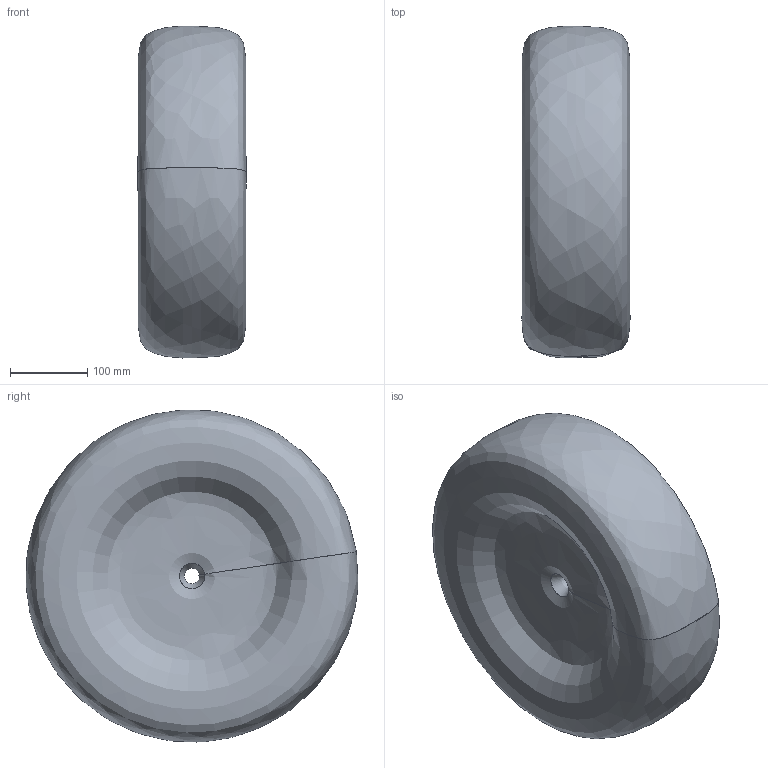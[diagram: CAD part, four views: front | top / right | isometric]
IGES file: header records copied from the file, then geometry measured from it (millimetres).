
Global section: file name: Filename.iges; native system: Open CASCADE 6.5; preprocessor: Open CASCADE IGES processor 6.5; author: DlxGeo; organization: Delcross; date: 20130207.123745; units: millimetre
Bounding box: 140.11 x 429.97 x 430.06 mm (x, y, z)
Surface area: 451690.9 mm2 (no closed solid volume)
Topology: 0 solids, 0 shells, 1 faces, 4 edges, 1 vertices
Faces by surface type: bspline 1
